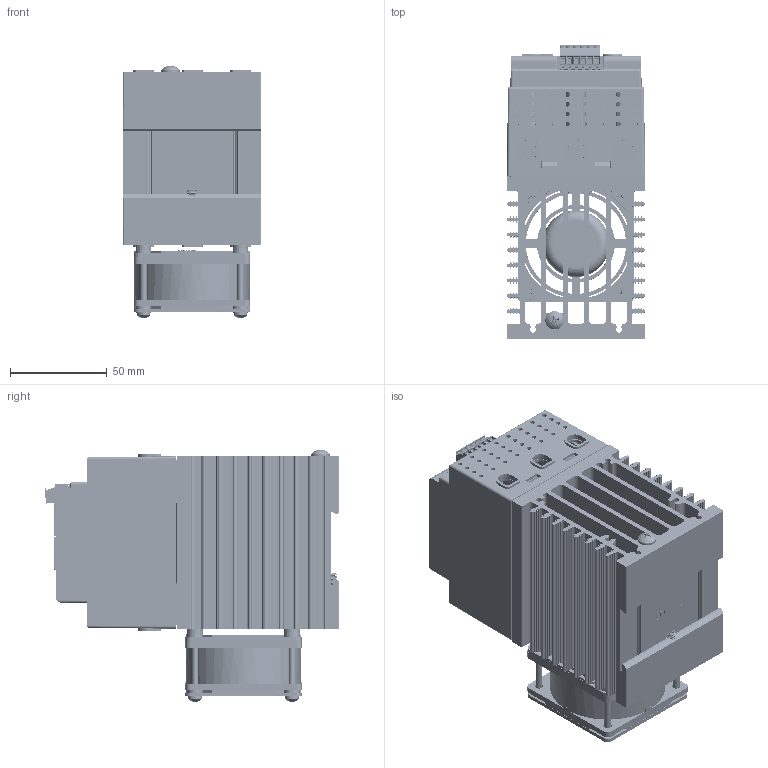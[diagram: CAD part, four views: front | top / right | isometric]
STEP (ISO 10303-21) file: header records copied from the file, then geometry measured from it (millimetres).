
FILE_DESCRIPTION(/* description */ (''),/* implementation_level */ '2;1');
FILE_NAME(/* name */ '3-phase EtherCAT 50+80A.stp',/* time_stamp */ '2024-11-15T10:01:21-06:00',/* author */ ('ErikG'),/* organization */ (''),/* preprocessor_version */ 'ST-DEVELOPER v20',/* originating_system */ 'Autodesk Inventor 2025',/* authorisation */ '');
FILE_SCHEMA (('AUTOMOTIVE_DESIGN { 1 0 10303 214 3 1 1 }'));
Products named in the file (38): 3001632e; SCA-3TC; P1; usb-c31-s-vt-cs4-bk-pp-t-r-model ADAMTECH; P6; fci 6 pin header OQ06120000J0G; fci 6 pin headerOQ06120000J0G half 1; fci 5 pin header OQ05120000J0G half 2; fci 6 pin connector TS06110B00J0G; fci 5 pin connector TS05110B00J0G LEFT HALF; fci 5 pin connector TS05110B00J0G RIGHT HALF; P2; TC0203620000G; P11; P5; 74990101210 (rev1); base; shielding; SCA-3TC_1; SW3; SW2; SH-7070TA; _SH-7070A_body; _SH-700-Without knob (Minus slot); 3001769C_ecat cutouts; 3001761; 3001759; 3001766; 3001765b; 3001746; spring; 0060783-0610-010.ipt; 0060702-1032-0375; 0060002-0632-1175; 62111-0006-0; 3001772; 3001773; 2R36_SQ_FAN_1R0 depth
Assembly tree (47 placements, depth 6):
  3001632e
    SCA-3TC
      P1
        usb-c31-s-vt-cs4-bk-pp-t-r-model ADAMTECH
      P6
        fci 6 pin header OQ06120000J0G
          fci 6 pin headerOQ06120000J0G half 1
          fci 5 pin header OQ05120000J0G half 2
          fci 6 pin connector TS06110B00J0G
            fci 5 pin connector TS05110B00J0G LEFT HALF
            fci 5 pin connector TS05110B00J0G RIGHT HALF
      P2
        TC0203620000G
      P11
        74990101210 (rev1)
          base
          shielding
      P5
        74990101210 (rev1)
          base
          shielding
    SCA-3TC_1
      SW3
        SH-7070TA
          _SH-7070A_body
          _SH-700-Without knob (Minus slot)
      SW2
        SH-7070TA
          _SH-7070A_body
          _SH-700-Without knob (Minus slot)
    3001769C_ecat cutouts
    3001761  x3
    3001759
    3001766
    3001765b
    3001746
    spring
    0060783-0610-010.ipt
    0060702-1032-0375
    0060002-0632-1175  x4
    62111-0006-0  x4
    3001772
    3001773
    2R36_SQ_FAN_1R0 depth
Bounding box: 71.12 x 151.53 x 130.1 mm (x, y, z)
Volume: 344703 mm3; surface area: 304906.9 mm2
Topology: 37 solids, 131 shells, 11243 faces, 31545 edges, 20769 vertices
Faces by surface type: plane 8457, cylinder 2036, cone 425, bspline 198, torus 104, sphere 23
Full cylindrical faces by diameter (mm): 0.254 x1, 0.45 x2, 0.55 x2, 0.65 x2, 1 x6, 1.2 x2, 1.75 x2, 2.15 x12, 2.3 x12, 2.642 x6, 2.7 x2, 2.8 x4, 2.95 x6, 3.277 x4, 3.28 x2, 3.3 x2, 3.342 x1, 3.4 x2, 3.42 x2, 3.505 x4, 3.6 x2, 4 x2, 4.293 x8, 4.826 x1, 4.917 x1, 6 x1, 6.172 x1, 6.731 x2, 6.858 x4, 7.493 x8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
Entity records: 308186 total; most frequent: CARTESIAN_POINT 78489, ORIENTED_EDGE 48788, DIRECTION 44923, EDGE_CURVE 24394, LINE 18807, VECTOR 18807, VERTEX_POINT 16079, AXIS2_PLACEMENT_3D 13058
